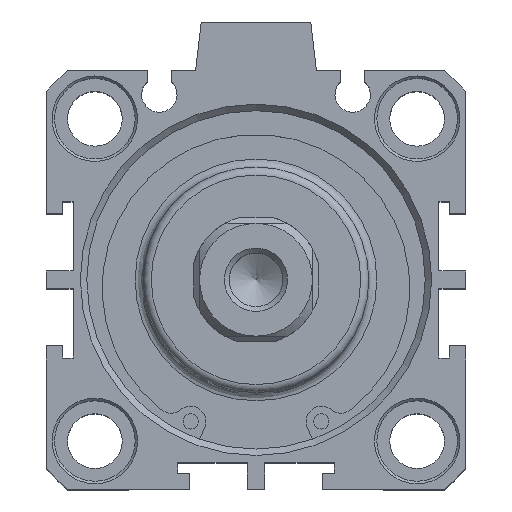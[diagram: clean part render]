
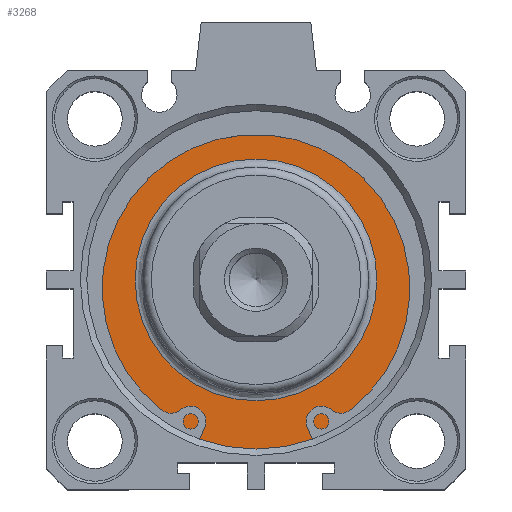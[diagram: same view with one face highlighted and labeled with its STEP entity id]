
A CAD part, top view. The second image highlights one B-rep face of the part: STEP entity #3268.
In plain terms, the highlighted planar face has unit normal (0, 0, 1).
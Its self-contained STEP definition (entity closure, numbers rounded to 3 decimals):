
#3217=CARTESIAN_POINT('',(0.598,16.555,42.4));
#3218=VERTEX_POINT('',#3217);
#3219=CARTESIAN_POINT('',(0.598,1.555,42.4));
#3220=DIRECTION('',(0.0,0.0,1.0));
#3221=DIRECTION('',(0.0,-1.0,0.0));
#3222=AXIS2_PLACEMENT_3D('',#3219,#3220,#3221);
#3223=CIRCLE('',#3222,15.);
#3224=EDGE_CURVE('',#3218,#3218,#3223,.T.);
#3249=CARTESIAN_POINT('',(0.598,19.055,42.4));
#3250=DIRECTION('',(0.0,0.0,1.0));
#3251=DIRECTION('',(1.0,0.0,0.0));
#3252=AXIS2_PLACEMENT_3D('',#3249,#3250,#3251);
#3253=PLANE('',#3252);
#3254=CARTESIAN_POINT('',(0.598,22.555,42.4));
#3255=VERTEX_POINT('',#3254);
#3256=CARTESIAN_POINT('',(0.598,1.555,42.4));
#3257=DIRECTION('',(0.0,0.0,-1.0));
#3258=DIRECTION('',(0.0,1.0,0.0));
#3259=AXIS2_PLACEMENT_3D('',#3256,#3257,#3258);
#3260=CIRCLE('',#3259,21.);
#3261=EDGE_CURVE('',#3255,#3255,#3260,.T.);
#3262=ORIENTED_EDGE('',*,*,#3261,.F.);
#3263=EDGE_LOOP('',(#3262));
#3264=FACE_OUTER_BOUND('',#3263,.T.);
#3265=ORIENTED_EDGE('',*,*,#3224,.F.);
#3266=EDGE_LOOP('',(#3265));
#3267=FACE_BOUND('',#3266,.T.);
#3268=ADVANCED_FACE('',(#3264,#3267),#3253,.T.);
